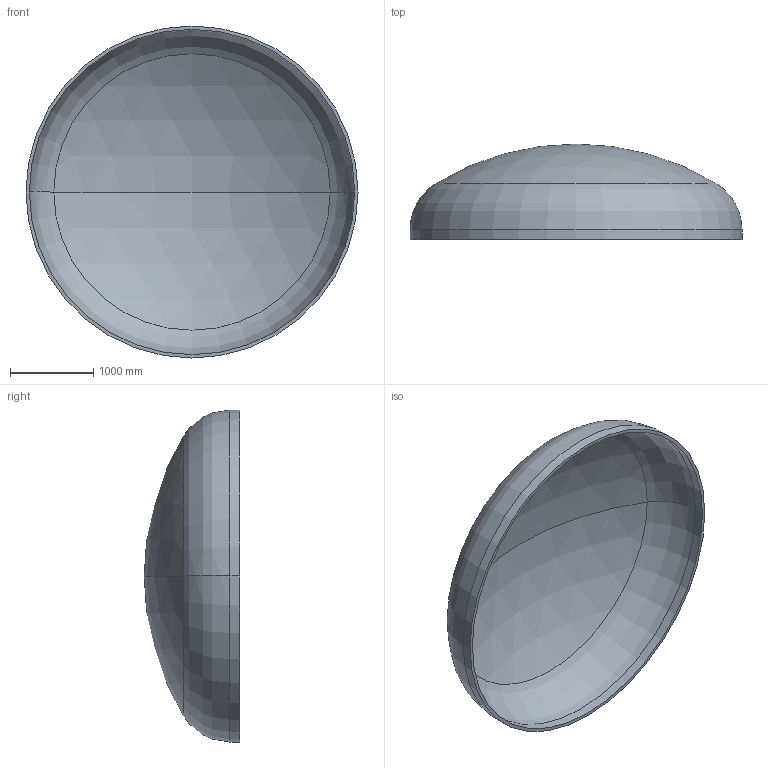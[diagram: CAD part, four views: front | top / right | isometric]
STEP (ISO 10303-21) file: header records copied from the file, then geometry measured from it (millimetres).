
FILE_DESCRIPTION (( 'STEP AP203' ), '1' );
FILE_NAME ('DIN 28013 Korbbogenform_-_Boden DIN 28013 - 4000 x 120 - I - s=40.step', '2016-07-01T22:22:30', ( '' ), ( '' ), 'SwSTEP 2.0', 'SolidWorks 2013', '' );
FILE_SCHEMA (( 'CONFIG_CONTROL_DESIGN' ));
Length unit declared in the file: millimetre
Products named in the file (1): DIN 28013 Korbbogenform_-_Boden DIN 28013 - 4000 x 120 - I - s=40
Bounding box: 4000 x 1152.47 x 4000 mm (x, y, z)
Volume: 746520464 mm3; surface area: 37826988.7 mm2
Topology: 1 solids, 1 shells, 13 faces, 24 edges, 14 vertices
Faces by surface type: torus 4, cylinder 4, sphere 4, plane 1
Entity records: 407 total; most frequent: DIRECTION 72, CARTESIAN_POINT 52, ORIENTED_EDGE 48, AXIS2_PLACEMENT_3D 34, EDGE_CURVE 24, CIRCLE 20, EDGE_LOOP 14, VERTEX_POINT 14
